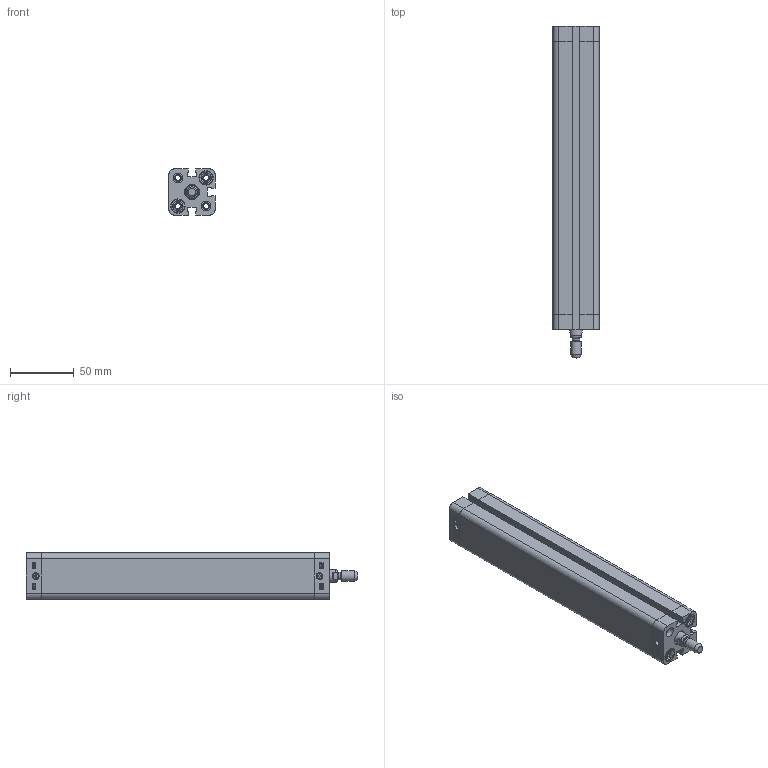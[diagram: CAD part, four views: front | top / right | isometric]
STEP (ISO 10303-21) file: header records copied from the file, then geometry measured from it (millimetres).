
FILE_DESCRIPTION((''),'2;1');
FILE_NAME('T:\Archivio Inventor\- CATALOGHI 2012\SERIE P - NUOVA\PDM\PDM020\PDM020.---.GS.M\STEP\PDM020.200.GS.M.stp','2013-01-30T11:01:22',('Administrator'),(''),'Autodesk Inventor 2012','Autodesk Inventor 2012','');
FILE_SCHEMA(('CONFIG_CONTROL_DESIGN'));
Length unit declared in the file: millimetre
Products named in the file (1): PDM020.200.GS.M
Bounding box: 36.3 x 259.6 x 36.3 mm (x, y, z)
Volume: 150886.9 mm3; surface area: 88326.7 mm2
Topology: 1 solids, 3 shells, 489 faces, 1225 edges, 798 vertices
Faces by surface type: plane 245, bspline 94, cylinder 88, cone 50, torus 12
Full cylindrical faces by diameter (mm): 1.75 x2, 4.134 x10, 5.8 x1, 7.5 x4, 7.55 x2, 8 x9, 9 x1, 10 x1, 10.8 x4, 11.1 x4, 11.4 x1, 20 x1, 22.3 x1, 22.5 x1
Entity records: 15051 total; most frequent: CARTESIAN_POINT 3734, ORIENTED_EDGE 2232, DIRECTION 1950, EDGE_CURVE 1116, VERTEX_POINT 782, VECTOR 670, LINE 670, EDGE_LOOP 652
